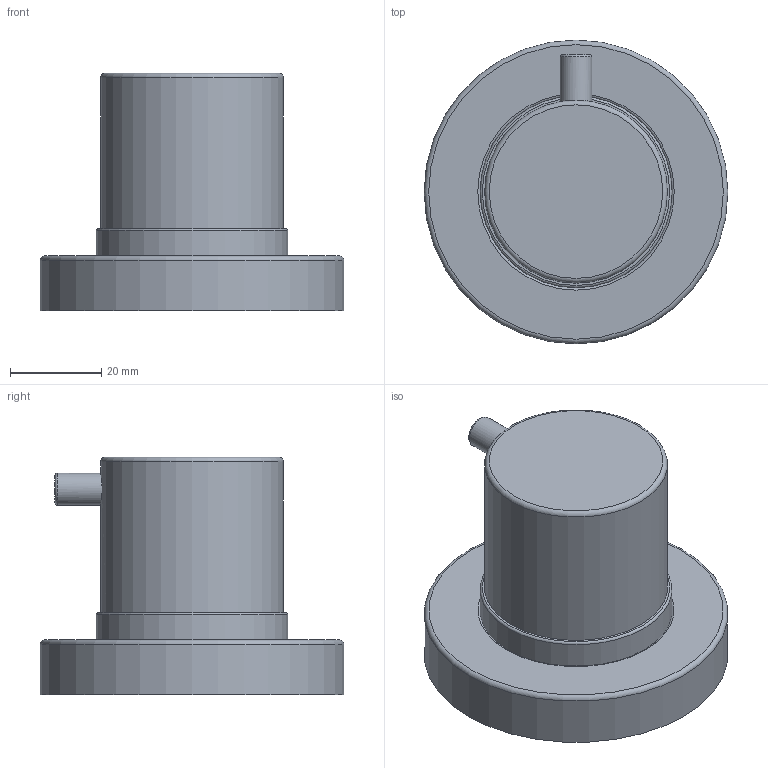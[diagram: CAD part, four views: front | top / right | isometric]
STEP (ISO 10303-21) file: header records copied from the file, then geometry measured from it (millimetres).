
FILE_DESCRIPTION(('STEP AP242'), '1');
FILE_NAME('78..425', '', ('UNSPECIFIED'), ('UNSPECIFIED'), 'C3D Converter', 'C3D Toolkit', '');
FILE_SCHEMA(('AP242_MANAGED_MODEL_BASED_3D_ENGINEERING_MIM_LF { 1 0 10303 442 1 1 4 }'));
Length unit declared in the file: millimetre
Bounding box: 66.5 x 66.5 x 52 mm (x, y, z)
Volume: 76534.4 mm3; surface area: 17663.9 mm2
Topology: 1 solids, 1 shells, 18 faces, 28 edges, 17 vertices
Faces by surface type: plane 7, cylinder 6, torus 5
Full cylindrical faces by diameter (mm): 7 x1, 40 x1, 42 x2, 64 x1, 66.5 x1
Entity records: 602 total; most frequent: CARTESIAN_POINT 120, DIRECTION 70, AXIS2_PLACEMENT_3D 35, EDGE_LOOP 34, ORIENTED_EDGE 34, FACE_OUTER_BOUND 22, COLOUR_RGB 19, FILL_AREA_STYLE_COLOUR 19
